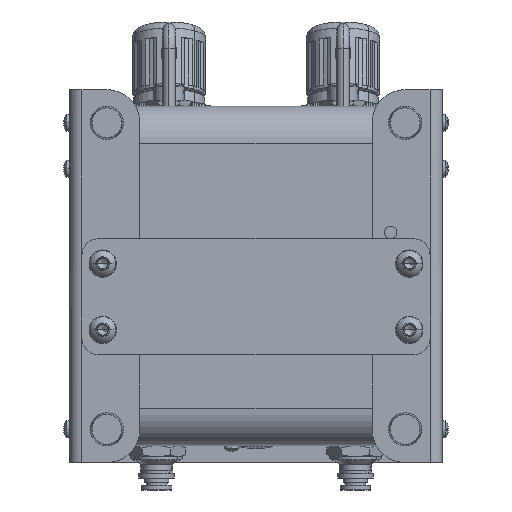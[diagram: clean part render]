
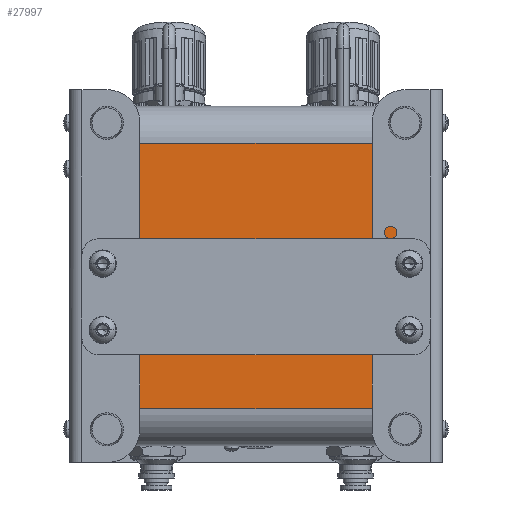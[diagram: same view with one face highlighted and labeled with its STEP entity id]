
A CAD part, front view. The second image highlights one B-rep face of the part: STEP entity #27997.
In plain terms, the highlighted planar face has unit normal (0, -1, 0).
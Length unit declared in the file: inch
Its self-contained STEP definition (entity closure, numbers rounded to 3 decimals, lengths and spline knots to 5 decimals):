
#11310 = CARTESIAN_POINT ( 'NONE',  ( 2.75, -0.0625, 0.5 ) ) ;
#14974 = EDGE_CURVE ( 'NONE', #185284, #59488, #176951, .T. ) ;
#27997 = ADVANCED_FACE ( 'NONE', ( #244759 ), #114413, .T. ) ;
#44657 = CARTESIAN_POINT ( 'NONE',  ( 2.75, -0.0625, 0.5 ) ) ;
#49535 = DIRECTION ( 'NONE',  ( 0., 0., 1. ) ) ;
#59488 = VERTEX_POINT ( 'NONE', #154703 ) ;
#76926 = CARTESIAN_POINT ( 'NONE',  ( -2.75, -0.0625, 4.5 ) ) ;
#83486 = ORIENTED_EDGE ( 'NONE', *, *, #130805, .T. ) ;
#89816 = EDGE_CURVE ( 'NONE', #59488, #252876, #237706, .T. ) ;
#90081 = ORIENTED_EDGE ( 'NONE', *, *, #89816, .F. ) ;
#96616 = DIRECTION ( 'NONE',  ( -1., 0., 0. ) ) ;
#114413 = PLANE ( 'NONE',  #178245 ) ;
#121557 = EDGE_CURVE ( 'NONE', #259783, #252876, #264216, .T. ) ;
#126617 = CARTESIAN_POINT ( 'NONE',  ( 2.75, -0.0625, 4.5 ) ) ;
#127140 = VECTOR ( 'NONE', #128512, 39.37008 ) ;
#128512 = DIRECTION ( 'NONE',  ( 0., 0., 1. ) ) ;
#130805 = EDGE_CURVE ( 'NONE', #185284, #259783, #191618, .T. ) ;
#133086 = CARTESIAN_POINT ( 'NONE',  ( 2.75, -0.0625, 0.5 ) ) ;
#134142 = CARTESIAN_POINT ( 'NONE',  ( 2.75, -0.0625, 0.5 ) ) ;
#137742 = DIRECTION ( 'NONE',  ( 0., -1., 0. ) ) ;
#144475 = VECTOR ( 'NONE', #175606, 39.37008 ) ;
#154703 = CARTESIAN_POINT ( 'NONE',  ( -2.75, -0.0625, 0.5 ) ) ;
#159485 = ORIENTED_EDGE ( 'NONE', *, *, #121557, .T. ) ;
#173532 = EDGE_LOOP ( 'NONE', ( #90081, #206708, #83486, #159485 ) ) ;
#175606 = DIRECTION ( 'NONE',  ( -1., 0., 0. ) ) ;
#176951 = LINE ( 'NONE', #133086, #144475 ) ;
#178245 = AXIS2_PLACEMENT_3D ( 'NONE', #11310, #137742, #221431 ) ;
#185284 = VERTEX_POINT ( 'NONE', #134142 ) ;
#191618 = LINE ( 'NONE', #44657, #127140 ) ;
#205734 = VECTOR ( 'NONE', #49535, 39.37008 ) ;
#206708 = ORIENTED_EDGE ( 'NONE', *, *, #14974, .F. ) ;
#221431 = DIRECTION ( 'NONE',  ( 0., 0., -1. ) ) ;
#221572 = CARTESIAN_POINT ( 'NONE',  ( 2.75, -0.0625, 4.5 ) ) ;
#237706 = LINE ( 'NONE', #257000, #205734 ) ;
#244759 = FACE_OUTER_BOUND ( 'NONE', #173532, .T. ) ;
#248515 = VECTOR ( 'NONE', #96616, 39.37008 ) ;
#252876 = VERTEX_POINT ( 'NONE', #76926 ) ;
#257000 = CARTESIAN_POINT ( 'NONE',  ( -2.75, -0.0625, 0.5 ) ) ;
#259783 = VERTEX_POINT ( 'NONE', #126617 ) ;
#264216 = LINE ( 'NONE', #221572, #248515 ) ;
